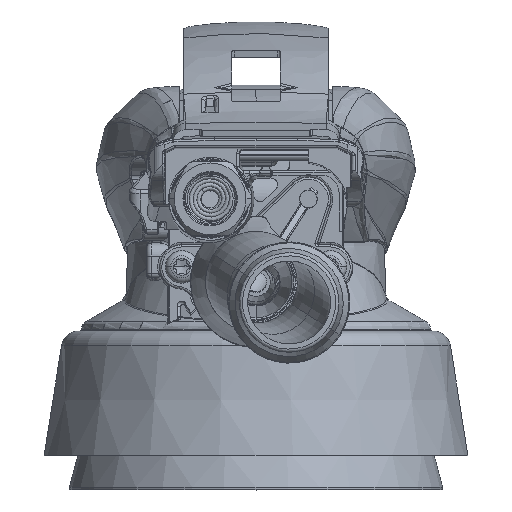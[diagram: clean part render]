
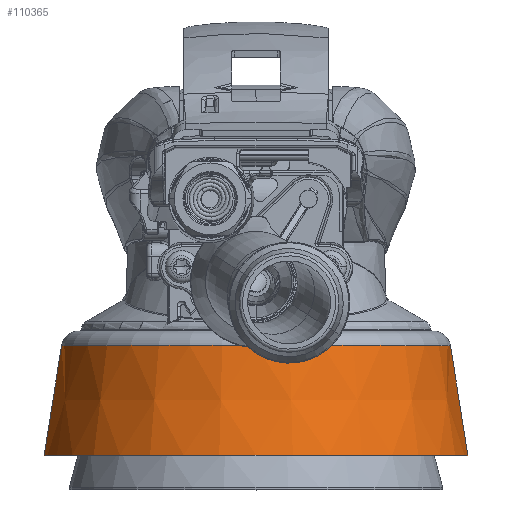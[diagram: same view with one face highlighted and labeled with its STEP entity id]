
A CAD part, top view. The second image highlights one B-rep face of the part: STEP entity #110365.
In plain terms, the highlighted conical face has half-angle 9 degrees and reference radius 46.51 mm.
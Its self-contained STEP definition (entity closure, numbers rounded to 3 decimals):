
#108936=CARTESIAN_POINT('',(0.,-25.126,0.));
#108937=DIRECTION('',(0.,1.,0.));
#108938=DIRECTION('',(-1.,0.,0.));
#108939=AXIS2_PLACEMENT_3D('',#108936,#108937,#108938);
#109360=CARTESIAN_POINT('',(0.,0.,0.));
#109361=DIRECTION('',(0.,-1.,0.));
#109362=DIRECTION('',(1.,0.,0.));
#109363=AXIS2_PLACEMENT_3D('',#109360,#109361,#109362);
#109375=DIRECTION('',(0.156,0.988,0.));
#109376=VECTOR('',#109375,25.44);
#109377=CARTESIAN_POINT('',(44.52,-25.126,0.));
#109378=LINE('',#109377,#109376);
#109379=DIRECTION('',(-0.156,0.988,0.));
#109380=VECTOR('',#109379,25.44);
#109381=CARTESIAN_POINT('',(-44.52,-25.126,0.));
#109382=LINE('',#109381,#109380);
#109388=CARTESIAN_POINT('',(-44.52,-25.126,0.));
#109390=VERTEX_POINT('',#109388);
#109391=CARTESIAN_POINT('',(44.52,-25.126,
0.));
#109392=VERTEX_POINT('',#109391);
#109507=CARTESIAN_POINT('',(-48.5,0.,0.));
#109508=CARTESIAN_POINT('',(48.5,0.,0.));
#109509=VERTEX_POINT('',#109507);
#109510=VERTEX_POINT('',#109508);
#110354=CARTESIAN_POINT('',(0.,-12.563,0.));
#110355=DIRECTION('',(0.,1.,0.));
#110356=DIRECTION('',(1.,0.,0.));
#110357=AXIS2_PLACEMENT_3D('',#110354,#110355,#110356);
#110358=CONICAL_SURFACE('',#110357,46.51,9.);
#110359=ORIENTED_EDGE('',*,*,#110338,.T.);
#110360=ORIENTED_EDGE('',*,*,#110316,.F.);
#110361=ORIENTED_EDGE('',*,*,#110341,.F.);
#110362=ORIENTED_EDGE('',*,*,#109518,.F.);
#110363=EDGE_LOOP('',(#110359,#110360,#110361,#110362));
#110364=FACE_OUTER_BOUND('',#110363,.F.);
#110365=ADVANCED_FACE('',(#110364),#110358,.T.);
#108940=CIRCLE('',#108939,44.52);
#109364=CIRCLE('',#109363,48.5);
#109518=EDGE_CURVE('',#109390,#109392,#108940,.T.);
#110316=EDGE_CURVE('',#109510,#109509,#109364,.T.);
#110338=EDGE_CURVE('',#109390,#109509,#109382,.T.);
#110341=EDGE_CURVE('',#109392,#109510,#109378,.T.);
